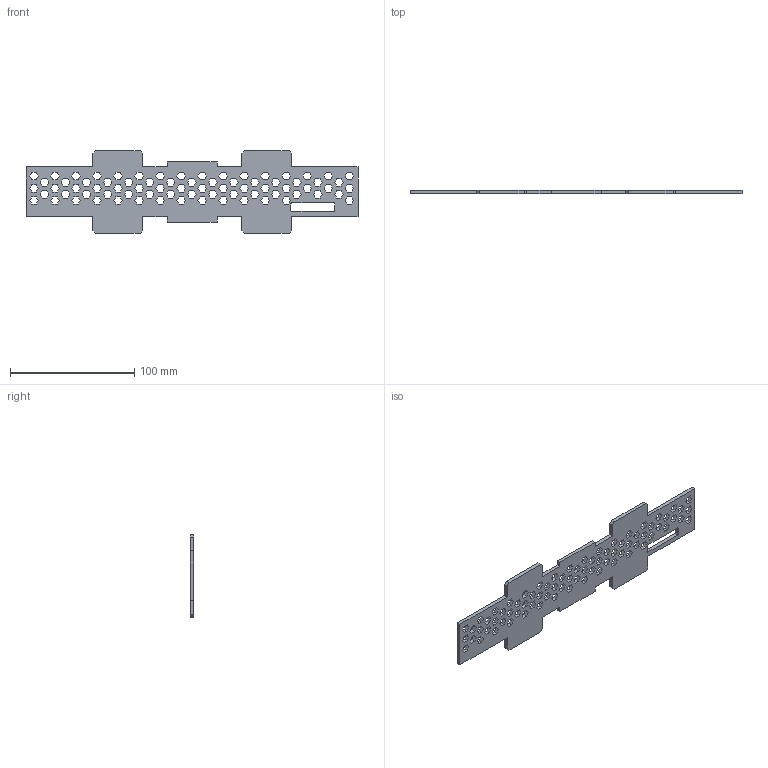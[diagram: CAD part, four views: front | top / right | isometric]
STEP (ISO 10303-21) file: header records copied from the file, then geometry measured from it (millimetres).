
FILE_DESCRIPTION(/* description */ ('STEP AP242 Edition 2','CAx-IF Rec.Pracs.---Representation and Presentation of Product Manufacturing Information (PMI)---4.0---2014-10-13','CAx-IF Rec.Pracs.---3D Tessellated Geometry---0.4---2014-09-14','2;1','CAx-IF Rec.Pracs.---User Defined Attributes---1.5---2016-08-15'),/* implementation_level */ '2;1');
FILE_NAME(/* name */ 'Enclosure - Front',/* time_stamp */ '2026-11-16T09:17:36Z',/* author */ (''),/* organization */ (''),/* preprocessor_version */ 'ST-DEVELOPER v20',/* originating_system */ 'ONSHAPE BY PTC INC, 1.223',/* authorisation */ ' ');
FILE_SCHEMA (('AP242_MANAGED_MODEL_BASED_3D_ENGINEERING_MIM_LF { 1 0 10303 442 3 1 4 }'));
Length unit declared in the file: metre
Products named in the file (1): Front
Bounding box: 267.3 x 3 x 66.5 mm (x, y, z)
Volume: 31561.2 mm3; surface area: 28214.1 mm2
Topology: 1 solids, 1 shells, 502 faces, 1500 edges, 1000 vertices
Faces by surface type: plane 498, cylinder 4
Entity records: 16862 total; most frequent: CARTESIAN_POINT 3003, ORIENTED_EDGE 3000, DIRECTION 2514, EDGE_CURVE 1500, LINE 1492, VECTOR 1492, VERTEX_POINT 1000, EDGE_LOOP 656
